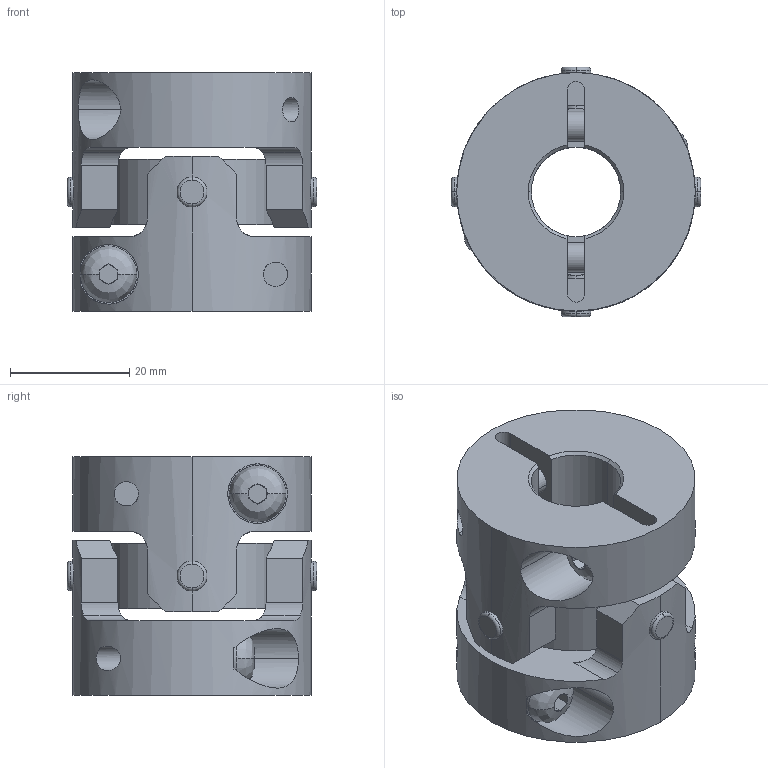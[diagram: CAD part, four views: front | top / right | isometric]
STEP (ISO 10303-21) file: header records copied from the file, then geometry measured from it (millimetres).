
FILE_DESCRIPTION((''),'2;1');
FILE_NAME('UA-40C-15×19.stp','2013-05-22T09:00:16',(''),(''),'AutoCAD STEP 2000i','AutoCAD 2000i',', , ');
FILE_SCHEMA(('CONFIG_CONTROL_DESIGN'));
Length unit declared in the file: millimetre
Products named in the file (7): UA-40C-8×18; 忣兜1; UA-4002-D18; BTN-M5; UA-4002-D08-1; UA-4002-D08; UA40-SEN
Assembly tree (8 placements, depth 3):
  UA-40C-8×18
    忣兜1
    UA-4002-D18
      BTN-M5
    UA-4002-D08-1
      BTN-M5
    UA-4002-D08
      BTN-M5
    UA40-SEN
Bounding box: 41.81 x 41.81 x 40 mm (x, y, z)
Volume: 31814.1 mm3; surface area: 15059.2 mm2
Topology: 1 solids, 1 shells, 252 faces, 654 edges, 412 vertices
Faces by surface type: plane 124, cylinder 96, cone 16, bspline 8, torus 8
Entity records: 9705 total; most frequent: CARTESIAN_POINT 3363, DIRECTION 1308, ORIENTED_EDGE 1308, EDGE_CURVE 654, AXIS2_PLACEMENT_3D 505, VERTEX_POINT 412, VECTOR 298, LINE 298
